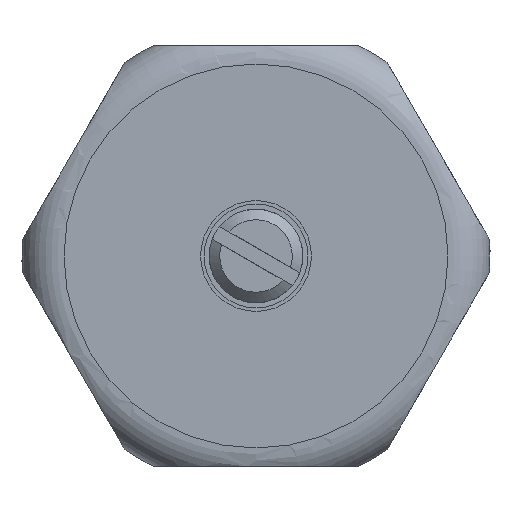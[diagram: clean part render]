
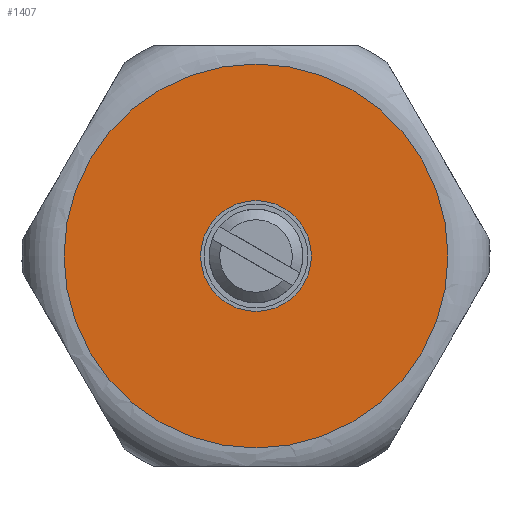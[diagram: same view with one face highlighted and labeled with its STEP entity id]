
A CAD part, left-side view. The second image highlights one B-rep face of the part: STEP entity #1407.
In plain terms, the highlighted planar face has unit normal (-1, 0, 0).
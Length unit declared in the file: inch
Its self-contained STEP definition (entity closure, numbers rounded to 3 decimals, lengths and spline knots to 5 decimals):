
#33=FACE_BOUND('',#331,.T.);
#116=CIRCLE('',#1523,0.14764);
#117=CIRCLE('',#1524,0.14764);
#143=CIRCLE('',#1568,0.51181);
#144=CIRCLE('',#1569,0.51181);
#249=FACE_OUTER_BOUND('',#330,.T.);
#330=EDGE_LOOP('',(#1077,#1078));
#331=EDGE_LOOP('',(#1079,#1080));
#546=VERTEX_POINT('',#2273);
#547=VERTEX_POINT('',#2274);
#586=VERTEX_POINT('',#2534);
#587=VERTEX_POINT('',#2535);
#710=EDGE_CURVE('',#546,#547,#116,.T.);
#711=EDGE_CURVE('',#547,#546,#117,.T.);
#767=EDGE_CURVE('',#586,#587,#143,.T.);
#768=EDGE_CURVE('',#587,#586,#144,.T.);
#1077=ORIENTED_EDGE('',*,*,#767,.F.);
#1078=ORIENTED_EDGE('',*,*,#768,.F.);
#1079=ORIENTED_EDGE('',*,*,#710,.T.);
#1080=ORIENTED_EDGE('',*,*,#711,.T.);
#1272=PLANE('',#1567);
#1407=ADVANCED_FACE('',(#249,#33),#1272,.T.);
#1523=AXIS2_PLACEMENT_3D('',#2275,#1807,#1808);
#1524=AXIS2_PLACEMENT_3D('',#2276,#1809,#1810);
#1567=AXIS2_PLACEMENT_3D('',#2533,#1911,#1912);
#1568=AXIS2_PLACEMENT_3D('',#2536,#1913,#1914);
#1569=AXIS2_PLACEMENT_3D('',#2537,#1915,#1916);
#1807=DIRECTION('center_axis',(1.,0.,0.));
#1808=DIRECTION('ref_axis',(0.,-0.866,0.5));
#1809=DIRECTION('center_axis',(1.,0.,0.));
#1810=DIRECTION('ref_axis',(0.,-0.866,0.5));
#1911=DIRECTION('center_axis',(-1.,0.,0.));
#1912=DIRECTION('ref_axis',(0.,-0.866,0.5));
#1913=DIRECTION('center_axis',(1.,0.,0.));
#1914=DIRECTION('ref_axis',(0.,0.866,-0.5));
#1915=DIRECTION('center_axis',(1.,0.,0.));
#1916=DIRECTION('ref_axis',(0.,0.866,-0.5));
#2273=CARTESIAN_POINT('',(-2.66747,-0.02656,-0.27052));
#2274=CARTESIAN_POINT('',(-2.66747,0.22916,-0.41816));
#2275=CARTESIAN_POINT('Origin',(-2.66747,0.1013,-0.34434));
#2276=CARTESIAN_POINT('Origin',(-2.66747,0.1013,-0.34434));
#2533=CARTESIAN_POINT('Origin',(-2.66747,0.54454,-0.60025));
#2534=CARTESIAN_POINT('',(-2.66747,0.54454,-0.60025));
#2535=CARTESIAN_POINT('',(-2.66747,-0.34194,-0.08844));
#2536=CARTESIAN_POINT('Origin',(-2.66747,0.1013,-0.34434));
#2537=CARTESIAN_POINT('Origin',(-2.66747,0.1013,-0.34434));
